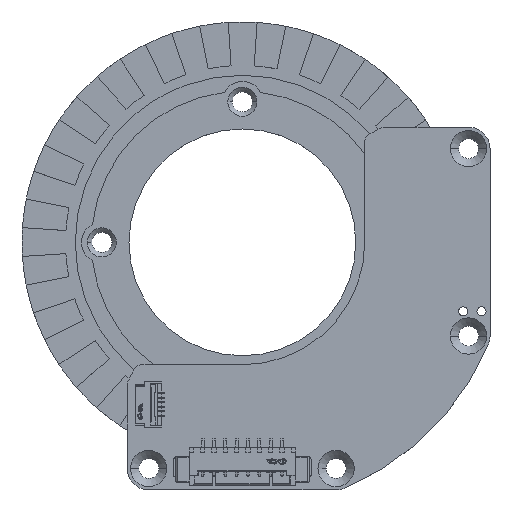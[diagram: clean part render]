
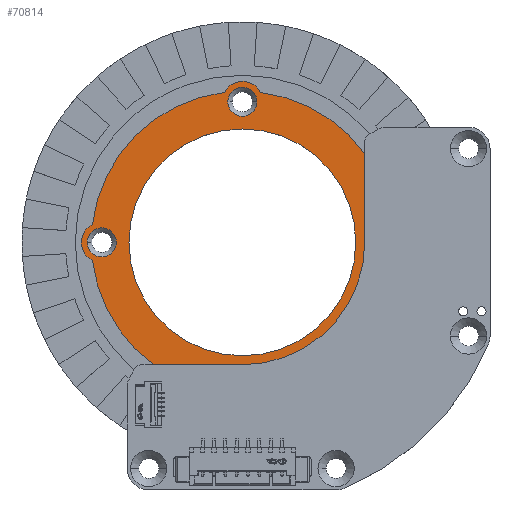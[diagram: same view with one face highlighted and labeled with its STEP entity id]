
A CAD part, top view. The second image highlights one B-rep face of the part: STEP entity #70814.
In plain terms, the highlighted planar face has unit normal (0, 0, 1) as drawn and (0, 1, 0) by its records, which use the part's own axes.
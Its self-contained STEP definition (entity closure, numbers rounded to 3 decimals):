
#67553=CARTESIAN_POINT('',(0.,1.2,-15.5));
#67554=DIRECTION('',(0.,1.,0.));
#67555=DIRECTION('',(1.,0.,0.));
#67556=AXIS2_PLACEMENT_3D('',#67553,#67554,#67555);
#67561=CARTESIAN_POINT('',(0.,1.2,-15.5));
#67562=DIRECTION('',(0.,-1.,0.));
#67563=DIRECTION('',(1.,0.,0.));
#67564=AXIS2_PLACEMENT_3D('',#67561,#67562,#67563);
#67569=CARTESIAN_POINT('',(-15.5,1.2,0.));
#67570=DIRECTION('',(0.,1.,0.));
#67571=DIRECTION('',(1.,0.,0.));
#67572=AXIS2_PLACEMENT_3D('',#67569,#67570,#67571);
#67577=CARTESIAN_POINT('',(-15.5,1.2,0.));
#67578=DIRECTION('',(0.,1.,0.));
#67579=DIRECTION('',(-1.,0.,0.));
#67580=AXIS2_PLACEMENT_3D('',#67577,#67578,#67579);
#67585=CARTESIAN_POINT('',(0.,1.2,15.5));
#67586=DIRECTION('',(0.,1.,0.));
#67587=DIRECTION('',(-1.,0.,0.));
#67588=AXIS2_PLACEMENT_3D('',#67585,#67586,#67587);
#67593=CARTESIAN_POINT('',(0.,1.2,15.5));
#67594=DIRECTION('',(0.,-1.,0.));
#67595=DIRECTION('',(-1.,0.,0.));
#67596=AXIS2_PLACEMENT_3D('',#67593,#67594,#67595);
#67601=CARTESIAN_POINT('',(15.5,1.2,0.));
#67602=DIRECTION('',(0.,1.,0.));
#67603=DIRECTION('',(-1.,0.,0.));
#67604=AXIS2_PLACEMENT_3D('',#67601,#67602,#67603);
#67609=CARTESIAN_POINT('',(15.5,1.2,0.));
#67610=DIRECTION('',(0.,1.,0.));
#67611=DIRECTION('',(1.,0.,0.));
#67612=AXIS2_PLACEMENT_3D('',#67609,#67610,#67611);
#67617=CARTESIAN_POINT('',(0.,1.2,0.));
#67618=DIRECTION('',(0.,-1.,0.));
#67619=DIRECTION('',(1.,0.,0.));
#67620=AXIS2_PLACEMENT_3D('',#67617,#67618,#67619);
#67625=CARTESIAN_POINT('',(0.,1.2,0.));
#67626=DIRECTION('',(0.,-1.,0.));
#67627=DIRECTION('',(-1.,0.,0.));
#67628=AXIS2_PLACEMENT_3D('',#67625,#67626,#67627);
#67969=CARTESIAN_POINT('',(0.,1.2,-15.5));
#67970=DIRECTION('',(0.,1.,0.));
#67971=DIRECTION('',(0.889,0.,-0.458));
#67972=AXIS2_PLACEMENT_3D('',#67969,#67970,#67971);
#67977=CARTESIAN_POINT('',(0.,1.2,15.5));
#67978=DIRECTION('',(0.,1.,0.));
#67979=DIRECTION('',(-0.889,0.,0.458));
#67980=AXIS2_PLACEMENT_3D('',#67977,#67978,#67979);
#69803=CARTESIAN_POINT('',(-15.5,1.2,0.));
#69804=DIRECTION('',(0.,1.,0.));
#69805=DIRECTION('',(-0.458,0.,-0.889));
#69806=AXIS2_PLACEMENT_3D('',#69803,#69804,#69805);
#69826=CARTESIAN_POINT('',(0.,1.2,0.));
#69827=DIRECTION('',(0.,1.,0.));
#69828=DIRECTION('',(-0.12,0.,-0.993));
#69829=AXIS2_PLACEMENT_3D('',#69826,#69827,#69828);
#69848=CARTESIAN_POINT('',(0.,1.2,0.));
#69849=DIRECTION('',(0.,1.,0.));
#69850=DIRECTION('',(-0.993,0.,0.12));
#69851=AXIS2_PLACEMENT_3D('',#69848,#69849,#69850);
#69877=CARTESIAN_POINT('',(0.,1.2,0.));
#69878=DIRECTION('',(0.,1.,0.));
#69879=DIRECTION('',(0.993,0.,-0.12));
#69880=AXIS2_PLACEMENT_3D('',#69877,#69878,#69879);
#69899=CARTESIAN_POINT('',(0.,1.2,0.));
#69900=DIRECTION('',(0.,1.,0.));
#69901=DIRECTION('',(0.12,0.,0.993));
#69902=AXIS2_PLACEMENT_3D('',#69899,#69900,#69901);
#69907=CARTESIAN_POINT('',(15.5,1.2,0.));
#69908=DIRECTION('',(0.,1.,0.));
#69909=DIRECTION('',(0.458,0.,0.889));
#69910=AXIS2_PLACEMENT_3D('',#69907,#69908,#69909);
#69931=CARTESIAN_POINT('',(12.505,1.2,0.));
#69932=CARTESIAN_POINT('',(-12.505,1.2,0.));
#69933=VERTEX_POINT('',#69931);
#69934=VERTEX_POINT('',#69932);
#70343=CARTESIAN_POINT('',(-1.6,1.2,15.5));
#70344=CARTESIAN_POINT('',(1.6,1.2,15.5));
#70345=VERTEX_POINT('',#70343);
#70346=VERTEX_POINT('',#70344);
#70359=CARTESIAN_POINT('',(1.6,1.2,-15.5));
#70360=CARTESIAN_POINT('',(-1.6,1.2,-15.5));
#70361=VERTEX_POINT('',#70359);
#70362=VERTEX_POINT('',#70360);
#70363=CARTESIAN_POINT('',(13.9,1.2,
0.));
#70364=VERTEX_POINT('',#70363);
#70365=CARTESIAN_POINT('',(-13.9,1.2,
0.));
#70366=VERTEX_POINT('',#70365);
#70383=CARTESIAN_POINT('',(-16.53,1.2,2.));
#70385=VERTEX_POINT('',#70383);
#70387=CARTESIAN_POINT('',(-16.53,1.2,-2.));
#70389=VERTEX_POINT('',#70387);
#70391=CARTESIAN_POINT('',(2.,1.2,-16.53));
#70392=VERTEX_POINT('',#70391);
#70393=CARTESIAN_POINT('',(-2.,1.2,-16.53));
#70394=VERTEX_POINT('',#70393);
#70395=CARTESIAN_POINT('',(16.53,1.2,2.));
#70397=VERTEX_POINT('',#70395);
#70399=CARTESIAN_POINT('',(16.53,1.2,-2.));
#70401=VERTEX_POINT('',#70399);
#70403=CARTESIAN_POINT('',(-2.,1.2,16.53));
#70404=VERTEX_POINT('',#70403);
#70405=CARTESIAN_POINT('',(2.,1.2,16.53));
#70406=VERTEX_POINT('',#70405);
#70407=CARTESIAN_POINT('',(17.1,1.2,0.));
#70408=VERTEX_POINT('',#70407);
#70409=CARTESIAN_POINT('',(-17.1,1.2,0.));
#70410=VERTEX_POINT('',#70409);
#70761=CARTESIAN_POINT('',(0.,1.2,0.));
#70762=DIRECTION('',(0.,1.,0.));
#70763=DIRECTION('',(0.139,0.,-0.99));
#70764=AXIS2_PLACEMENT_3D('',#70761,#70762,#70763);
#70765=PLANE('',#70764);
#70767=ORIENTED_EDGE('',*,*,#70766,.F.);
#70769=ORIENTED_EDGE('',*,*,#70768,.F.);
#70771=ORIENTED_EDGE('',*,*,#70770,.F.);
#70773=ORIENTED_EDGE('',*,*,#70772,.F.);
#70775=ORIENTED_EDGE('',*,*,#70774,.F.);
#70777=ORIENTED_EDGE('',*,*,#70776,.F.);
#70779=ORIENTED_EDGE('',*,*,#70778,.F.);
#70781=ORIENTED_EDGE('',*,*,#70780,.F.);
#70782=EDGE_LOOP('',(#70767,#70769,#70771,#70773,#70775,#70777,#70779,#70781));
#70783=FACE_OUTER_BOUND('',#70782,.F.);
#70785=ORIENTED_EDGE('',*,*,#70784,.T.);
#70787=ORIENTED_EDGE('',*,*,#70786,.F.);
#70788=EDGE_LOOP('',(#70785,#70787));
#70789=FACE_BOUND('',#70788,.F.);
#70791=ORIENTED_EDGE('',*,*,#70790,.T.);
#70793=ORIENTED_EDGE('',*,*,#70792,.T.);
#70794=EDGE_LOOP('',(#70791,#70793));
#70795=FACE_BOUND('',#70794,.F.);
#70797=ORIENTED_EDGE('',*,*,#70796,.T.);
#70799=ORIENTED_EDGE('',*,*,#70798,.F.);
#70800=EDGE_LOOP('',(#70797,#70799));
#70801=FACE_BOUND('',#70800,.F.);
#70803=ORIENTED_EDGE('',*,*,#70802,.T.);
#70805=ORIENTED_EDGE('',*,*,#70804,.T.);
#70806=EDGE_LOOP('',(#70803,#70805));
#70807=FACE_BOUND('',#70806,.F.);
#70809=ORIENTED_EDGE('',*,*,#70808,.F.);
#70811=ORIENTED_EDGE('',*,*,#70810,.F.);
#70812=EDGE_LOOP('',(#70809,#70811));
#70813=FACE_BOUND('',#70812,.F.);
#70814=ADVANCED_FACE('',(#70783,#70789,#70795,#70801,#70807,#70813),#70765,.T.);
#67557=CIRCLE('',#67556,1.6);
#67565=CIRCLE('',#67564,1.6);
#67573=CIRCLE('',#67572,1.6);
#67581=CIRCLE('',#67580,1.6);
#67589=CIRCLE('',#67588,1.6);
#67597=CIRCLE('',#67596,1.6);
#67605=CIRCLE('',#67604,1.6);
#67613=CIRCLE('',#67612,1.6);
#67621=CIRCLE('',#67620,12.505);
#67629=CIRCLE('',#67628,12.505);
#67973=CIRCLE('',#67972,2.25);
#67981=CIRCLE('',#67980,2.25);
#69807=CIRCLE('',#69806,2.25);
#69830=CIRCLE('',#69829,16.651);
#69852=CIRCLE('',#69851,16.651);
#69881=CIRCLE('',#69880,16.651);
#69903=CIRCLE('',#69902,16.651);
#69911=CIRCLE('',#69910,2.25);
#70766=EDGE_CURVE('',#70394,#70389,#69830,.T.);
#70768=EDGE_CURVE('',#70392,#70394,#67973,.T.);
#70770=EDGE_CURVE('',#70401,#70392,#69881,.T.);
#70772=EDGE_CURVE('',#70397,#70401,#69911,.T.);
#70774=EDGE_CURVE('',#70406,#70397,#69903,.T.);
#70776=EDGE_CURVE('',#70404,#70406,#67981,.T.);
#70778=EDGE_CURVE('',#70385,#70404,#69852,.T.);
#70780=EDGE_CURVE('',#70389,#70385,#69807,.T.);
#70784=EDGE_CURVE('',#70361,#70362,#67557,.T.);
#70786=EDGE_CURVE('',#70361,#70362,#67565,.T.);
#70790=EDGE_CURVE('',#70366,#70410,#67573,.T.);
#70792=EDGE_CURVE('',#70410,#70366,#67581,.T.);
#70796=EDGE_CURVE('',#70345,#70346,#67589,.T.);
#70798=EDGE_CURVE('',#70345,#70346,#67597,.T.);
#70802=EDGE_CURVE('',#70364,#70408,#67605,.T.);
#70804=EDGE_CURVE('',#70408,#70364,#67613,.T.);
#70808=EDGE_CURVE('',#69933,#69934,#67621,.T.);
#70810=EDGE_CURVE('',#69934,#69933,#67629,.T.);
